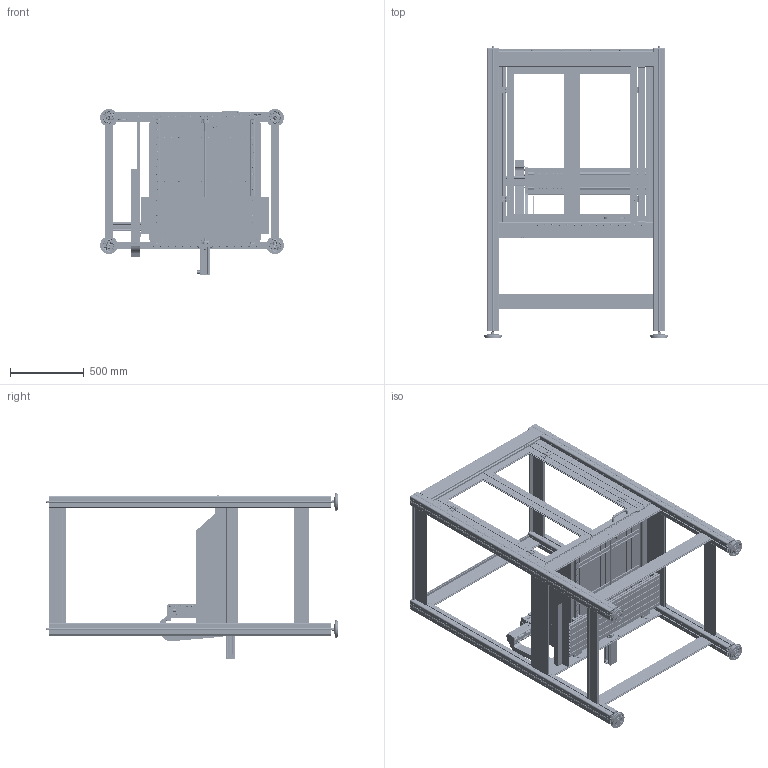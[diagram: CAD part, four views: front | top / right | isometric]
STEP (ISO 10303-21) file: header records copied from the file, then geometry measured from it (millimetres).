
FILE_DESCRIPTION (( 'STEP AP203' ), '1' );
FILE_NAME ('STEP_-_X-Y Flachbetteinheit FB2 - ArtNr 246203M - ArtNr 248500 0027 - ArtNr 248200 0000.step', '2015-04-22T15:15:34', ( '' ), ( '' ), 'SwSTEP 2.0', 'SolidWorks 2014', '' );
FILE_SCHEMA (( 'CONFIG_CONTROL_DESIGN' ));
Products named in the file (8): Untergestell 750x850_f〉 Umhausung; Untergestell Baugruppe_750x850 - f〉 Umhausung; Umhausung 750x850; Umhausung Baugruppe_750x850; STEP_-_X-Y Flachbetteinheit FB2 - ArtNr 246203M - ArtNr 248500 0027 - ArtNr 248200 0000; X-Y-Achse f黵 Verfahrweg 530; TE0060 - Schlittenplatte Vorschub 175mm; TE0179 - F黨rungsschlitten_F乭rungsschlitten f乺 KG-Mutter Typ25
Assembly tree (8 placements, depth 3):
  STEP_-_X-Y Flachbetteinheit FB2 - ArtNr 246203M - ArtNr 248500 0027 - ArtNr 248200 0000
    X-Y-Achse f黵 Verfahrweg 530
    TE0060 - Schlittenplatte Vorschub 175mm
    TE0179 - F黨rungsschlitten_F乭rungsschlitten f乺 KG-Mutter Typ25  x2
    Untergestell Baugruppe_750x850 - f〉 Umhausung
      Untergestell 750x850_f〉 Umhausung
    Umhausung Baugruppe_750x850
      Umhausung 750x850
Bounding box: 1249.73 x 1989.05 x 1128.16 mm (x, y, z)
Volume: 52809060.3 mm3; surface area: 34047974.8 mm2
Topology: 536 solids, 536 shells, 19005 faces, 50120 edges, 32337 vertices
Faces by surface type: plane 11417, cylinder 5677, cone 1084, torus 629, sphere 193, bspline 5
Full cylindrical faces by diameter (mm): 1.5 x12, 2 x3, 2.33 x2, 2.4 x2, 2.5 x30, 3 x17, 3.2 x9, 3.3 x8, 3.7 x1, 4 x55, 4.2 x20, 4.3 x11, 4.5 x16, 4.6 x1, 4.8 x4, 4.819 x7, 5 x82, 5.2 x47, 5.5 x16, 6 x233, 6.1 x8, 6.35 x2, 6.4 x12, 6.5 x64, 6.6 x83, 7 x197, 7.2 x2, 7.5 x26, 8 x36, 8.4 x4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
Entity records: 599797 total; most frequent: CARTESIAN_POINT 153894, ORIENTED_EDGE 89968, DIRECTION 89856, EDGE_CURVE 44984, AXIS2_PLACEMENT_3D 31318, VERTEX_POINT 30690, VECTOR 27220, LINE 27220
